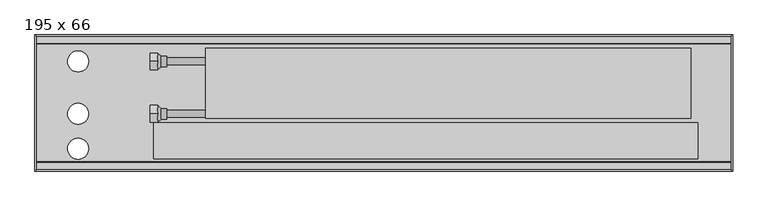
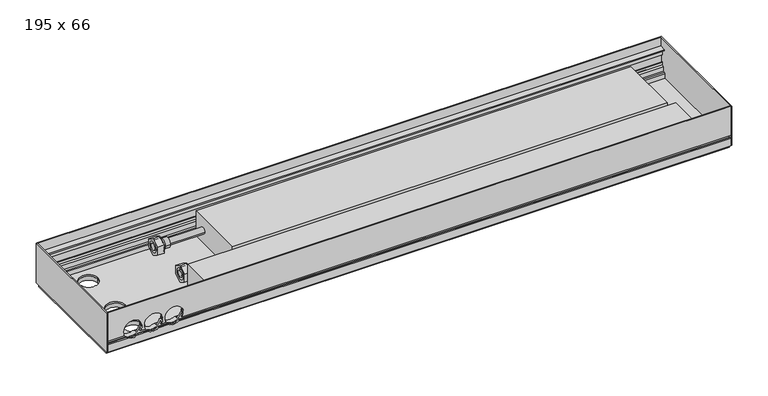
"""IFC4 building model written with IfcOpenShell, lengths in millimetres: proxy geometry, Mohlenhof_Внутрипольный конвектор_QSKM : 195 x 66."""

from ifc_helpers import new_model, si_unit, point, frame, frame_2d, origin, place, context, project, spatial, polyline, circle_curve, ellipse_curve, trimmed, segment, composite_curve, outline, extrude, source, transform, mapped, element, save
from ifc_brep_helpers import plane_surface, cylinder_surface, revolved_surface, advanced_brep


def proxy_195_x_66_7b87efa3(model_context):
    return source(origin(), model_context, "Body", "SolidModel", [
        advanced_brep(
        [(-324.0, -213.0, -41.0), (-324.0, -201.0, -41.0), (-324.0, -225.0, -41.0), (-311.5, -220.5, -41.0), (-311.5, -205.5, -41.0), (-311.5, -213.0, -41.0), (-319.0, -220.5, -41.0), (-319.0, -205.5, -41.0)],
        [
            (0, 1),
            (1, 2, circle_curve(frame((-324.0, -213.0, -41.0), z_axis=(-1.0, 0.0, 0.0), x_axis=(0.0, 1.0, 0.0)), 12.0)),
            (2, 0),
            (2, 1, circle_curve(frame((-324.0, -213.0, -41.0), z_axis=(-1.0, 0.0, 0.0), x_axis=(0.0, 1.0, 0.0)), 12.0)),
            (3, 4, circle_curve(frame((-311.5, -213.0, -41.0), z_axis=(1.0, 0.0, 0.0), x_axis=(0.0, 1.0, 0.0)), 7.5)),
            (4, 5),
            (5, 3),
            (4, 3, circle_curve(frame((-311.5, -213.0, -41.0), z_axis=(1.0, 0.0, 0.0), x_axis=(0.0, 1.0, 0.0)), 7.5)),
            (6, 7, circle_curve(frame((-319.0, -213.0, -41.0), z_axis=(1.0, 0.0, 0.0), x_axis=(0.0, 1.0, 0.0)), 7.5)),
            (7, 4),
            (3, 6),
            (7, 6, circle_curve(frame((-319.0, -213.0, -41.0), z_axis=(1.0, 0.0, 0.0), x_axis=(0.0, 1.0, 0.0)), 7.5)),
            (1, 7),
            (6, 2),
        ],
        [
            plane_surface(frame((-324.0, -213.0, -41.0), z_axis=(-1.0, 0.0, 0.0), x_axis=(0.0, 1.0, 0.0))),
            plane_surface(frame((-311.5, -213.0, -41.0), z_axis=(1.0, 0.0, 0.0), x_axis=(0.0, 1.0, 0.0))),
            cylinder_surface(frame((-324.0, -213.0, -41.0), z_axis=(-1.0, 0.0, 0.0), x_axis=(0.0, 1.0, 0.0)), 7.5),
            revolved_surface(polyline([(-319.0, -205.5, -41.0), (-324.0, -201.0, -41.0)]), (-324.0, -213.0, -41.0), (-1.0, 0.0, 0.0)),
        ],
        [
            (0, [[1, 2, 3]]),
            (0, [[-3, 4, -1]]),
            (1, [[5, 6, 7]]),
            (1, [[8, -7, -6]]),
            (2, [[9, 10, -5, 11]]),
            (2, [[12, -11, -8, -10]]),
            (3, [[-2, 13, -9, 14]]),
            (3, [[-4, -14, -12, -13]]),
        ],
    ),
        extrude(outline(polyline([(-213.0, -27.1435935), (-201.0, -34.0717968), (-201.0, -47.9282032), (-213.0, -54.8564065), (-225.0, -47.9282032), (-225.0, -34.0717968), (-213.0, -27.1435935)]), holes=[composite_curve([segment(trimmed(circle_curve(frame_2d((-213.0, -41.0)), 8.5), [point((-204.5, -41.0))], [point((-221.5, -41.0))], True, "CARTESIAN"), True, "CONTINUOUS"), segment(trimmed(circle_curve(frame_2d((-213.0, -41.0)), 8.5), [point((-221.5, -41.0))], [point((-204.5, -41.0))], True, "CARTESIAN"), True, "CONTINUOUS")], self_intersect=False)]), frame((-335.0, 0.0, 0.0), z_axis=(1.0, 0.0, 0.0), x_axis=(0.0, 1.0, 0.0)), (0.0, 0.0, 1.0), 11.0),
        advanced_brep(
        [(-324.0, -138.0, -41.0), (-324.0, -126.0, -41.0), (-324.0, -150.0, -41.0), (-311.5, -145.5, -41.0), (-311.5, -130.5, -41.0), (-311.5, -138.0, -41.0), (-319.0, -145.5, -41.0), (-319.0, -130.5, -41.0)],
        [
            (0, 1),
            (1, 2, circle_curve(frame((-324.0, -138.0, -41.0), z_axis=(-1.0, 0.0, 0.0), x_axis=(0.0, 1.0, 0.0)), 12.0)),
            (2, 0),
            (2, 1, circle_curve(frame((-324.0, -138.0, -41.0), z_axis=(-1.0, 0.0, 0.0), x_axis=(0.0, 1.0, 0.0)), 12.0)),
            (3, 4, circle_curve(frame((-311.5, -138.0, -41.0), z_axis=(1.0, 0.0, 0.0), x_axis=(0.0, 1.0, 0.0)), 7.5)),
            (4, 5),
            (5, 3),
            (4, 3, circle_curve(frame((-311.5, -138.0, -41.0), z_axis=(1.0, 0.0, 0.0), x_axis=(0.0, 1.0, 0.0)), 7.5)),
            (6, 7, circle_curve(frame((-319.0, -138.0, -41.0), z_axis=(1.0, 0.0, 0.0), x_axis=(0.0, 1.0, 0.0)), 7.5)),
            (7, 4),
            (3, 6),
            (7, 6, circle_curve(frame((-319.0, -138.0, -41.0), z_axis=(1.0, 0.0, 0.0), x_axis=(0.0, 1.0, 0.0)), 7.5)),
            (1, 7),
            (6, 2),
        ],
        [
            plane_surface(frame((-324.0, -138.0, -41.0), z_axis=(-1.0, 0.0, 0.0), x_axis=(0.0, 1.0, 0.0))),
            plane_surface(frame((-311.5, -138.0, -41.0), z_axis=(1.0, 0.0, 0.0), x_axis=(0.0, 1.0, 0.0))),
            cylinder_surface(frame((-324.0, -138.0, -41.0), z_axis=(-1.0, 0.0, 0.0), x_axis=(0.0, 1.0, 0.0)), 7.5),
            revolved_surface(polyline([(-319.0, -130.5, -41.0), (-324.0, -126.0, -41.0)]), (-324.0, -138.0, -41.0), (-1.0, 0.0, 0.0)),
        ],
        [
            (0, [[1, 2, 3]]),
            (0, [[-3, 4, -1]]),
            (1, [[5, 6, 7]]),
            (1, [[8, -7, -6]]),
            (2, [[9, 10, -5, 11]]),
            (2, [[12, -11, -8, -10]]),
            (3, [[-2, 13, -9, 14]]),
            (3, [[-4, -14, -12, -13]]),
        ],
    ),
        extrude(outline(polyline([(-138.0, -27.1435935), (-126.0, -34.0717968), (-126.0, -47.9282032), (-138.0, -54.8564065), (-150.0, -47.9282032), (-150.0, -34.0717968), (-138.0, -27.1435935)]), holes=[composite_curve([segment(trimmed(circle_curve(frame_2d((-138.0, -41.0)), 8.5), [point((-129.5, -41.0))], [point((-146.5, -41.0))], True, "CARTESIAN"), True, "CONTINUOUS"), segment(trimmed(circle_curve(frame_2d((-138.0, -41.0)), 8.5), [point((-146.5, -41.0))], [point((-129.5, -41.0))], True, "CARTESIAN"), True, "CONTINUOUS")], self_intersect=False)]), frame((-335.0, 0.0, 0.0), z_axis=(1.0, 0.0, 0.0), x_axis=(0.0, 1.0, 0.0)), (0.0, 0.0, 1.0), 11.0),
        extrude(outline(composite_curve([segment(trimmed(circle_curve(frame_2d((-475.0, -273.5)), 4.5), [point((-479.5, -273.5))], [point((-470.5, -273.5))], False, "CARTESIAN"), True, "CONTINUOUS"), segment(trimmed(circle_curve(frame_2d((-475.0, -273.5)), 4.5), [point((-470.5, -273.5))], [point((-479.5, -273.5))], False, "CARTESIAN"), True, "CONTINUOUS")], self_intersect=False)), frame((0.0, 0.0, -79.0), z_axis=(0.0, 0.0, 1.0), x_axis=(1.0, 0.0, 0.0)), (0.0, 0.0, 1.0), 7.0),
        extrude(outline(composite_curve([segment(trimmed(circle_curve(frame_2d((-475.0, -273.5)), 4.0), [point((-479.0, -273.5))], [point((-471.0, -273.5))], False, "CARTESIAN"), True, "CONTINUOUS"), segment(trimmed(circle_curve(frame_2d((-475.0, -273.5)), 4.0), [point((-471.0, -273.5))], [point((-479.0, -273.5))], False, "CARTESIAN"), True, "CONTINUOUS")], self_intersect=False)), frame((0.0, 0.0, -72.0), z_axis=(0.0, 0.0, 1.0), x_axis=(1.0, 0.0, 0.0)), (0.0, 0.0, 1.0), 1.5),
        extrude(outline(composite_curve([segment(trimmed(circle_curve(frame_2d((-475.0, -121.5)), 4.5), [point((-479.5, -121.5))], [point((-470.5, -121.5))], False, "CARTESIAN"), True, "CONTINUOUS"), segment(trimmed(circle_curve(frame_2d((-475.0, -121.5)), 4.5), [point((-470.5, -121.5))], [point((-479.5, -121.5))], False, "CARTESIAN"), True, "CONTINUOUS")], self_intersect=False)), frame((0.0, 0.0, -79.0), z_axis=(0.0, 0.0, 1.0), x_axis=(1.0, 0.0, 0.0)), (0.0, 0.0, 1.0), 7.0),
        extrude(outline(composite_curve([segment(trimmed(circle_curve(frame_2d((-475.0, -121.5)), 4.0), [point((-479.0, -121.5))], [point((-471.0, -121.5))], False, "CARTESIAN"), True, "CONTINUOUS"), segment(trimmed(circle_curve(frame_2d((-475.0, -121.5)), 4.0), [point((-471.0, -121.5))], [point((-479.0, -121.5))], False, "CARTESIAN"), True, "CONTINUOUS")], self_intersect=False)), frame((0.0, 0.0, -72.0), z_axis=(0.0, 0.0, 1.0), x_axis=(1.0, 0.0, 0.0)), (0.0, 0.0, 1.0), 1.5),
        extrude(outline(composite_curve([segment(trimmed(circle_curve(frame_2d((475.0, -273.5)), 4.5), [point((470.5, -273.5))], [point((479.5, -273.5))], False, "CARTESIAN"), True, "CONTINUOUS"), segment(trimmed(circle_curve(frame_2d((475.0, -273.5)), 4.5), [point((479.5, -273.5))], [point((470.5, -273.5))], False, "CARTESIAN"), True, "CONTINUOUS")], self_intersect=False)), frame((0.0, 0.0, -79.0), z_axis=(0.0, 0.0, 1.0), x_axis=(1.0, 0.0, 0.0)), (0.0, 0.0, 1.0), 7.0),
        extrude(outline(composite_curve([segment(trimmed(circle_curve(frame_2d((475.0, -273.5)), 4.0), [point((471.0, -273.5))], [point((479.0, -273.5))], False, "CARTESIAN"), True, "CONTINUOUS"), segment(trimmed(circle_curve(frame_2d((475.0, -273.5)), 4.0), [point((479.0, -273.5))], [point((471.0, -273.5))], False, "CARTESIAN"), True, "CONTINUOUS")], self_intersect=False)), frame((0.0, 0.0, -72.0), z_axis=(0.0, 0.0, 1.0), x_axis=(1.0, 0.0, 0.0)), (0.0, 0.0, 1.0), 1.5),
        extrude(outline(composite_curve([segment(trimmed(circle_curve(frame_2d((475.0, -121.5)), 4.5), [point((470.5, -121.5))], [point((479.5, -121.5))], False, "CARTESIAN"), True, "CONTINUOUS"), segment(trimmed(circle_curve(frame_2d((475.0, -121.5)), 4.5), [point((479.5, -121.5))], [point((470.5, -121.5))], False, "CARTESIAN"), True, "CONTINUOUS")], self_intersect=False)), frame((0.0, 0.0, -79.0), z_axis=(0.0, 0.0, 1.0), x_axis=(1.0, 0.0, 0.0)), (0.0, 0.0, 1.0), 7.0),
        extrude(outline(composite_curve([segment(trimmed(circle_curve(frame_2d((475.0, -121.5)), 4.0), [point((471.0, -121.5))], [point((479.0, -121.5))], False, "CARTESIAN"), True, "CONTINUOUS"), segment(trimmed(circle_curve(frame_2d((475.0, -121.5)), 4.0), [point((479.0, -121.5))], [point((471.0, -121.5))], False, "CARTESIAN"), True, "CONTINUOUS")], self_intersect=False)), frame((0.0, 0.0, -72.0), z_axis=(0.0, 0.0, 1.0), x_axis=(1.0, 0.0, 0.0)), (0.0, 0.0, 1.0), 1.5),
        extrude(outline(polyline([(450.0, -225.87), (450.0, -277.18), (-330.0, -277.18), (-330.0, -225.87), (450.0, -225.87)])), frame((0.0, 0.0, -62.5), z_axis=(0.0, 0.0, 1.0), x_axis=(1.0, 0.0, 0.0)), (0.0, 0.0, 1.0), 43.62),
        extrude(outline(composite_curve([segment(trimmed(circle_curve(frame_2d((-213.0, -41.0)), 5.0), [point((-218.0, -41.0))], [point((-208.0, -41.0))], False, "CARTESIAN"), True, "CONTINUOUS"), segment(trimmed(circle_curve(frame_2d((-213.0, -41.0)), 5.0), [point((-208.0, -41.0))], [point((-218.0, -41.0))], False, "CARTESIAN"), True, "CONTINUOUS")], self_intersect=False)), frame((-335.0, 0.0, 0.0), z_axis=(1.0, 0.0, 0.0), x_axis=(0.0, 1.0, 0.0)), (0.0, 0.0, 1.0), 80.0),
        extrude(outline(composite_curve([segment(trimmed(circle_curve(frame_2d((-138.0, -41.0)), 5.0), [point((-143.0, -41.0))], [point((-133.0, -41.0))], False, "CARTESIAN"), True, "CONTINUOUS"), segment(trimmed(circle_curve(frame_2d((-138.0, -41.0)), 5.0), [point((-133.0, -41.0))], [point((-143.0, -41.0))], False, "CARTESIAN"), True, "CONTINUOUS")], self_intersect=False)), frame((-335.0, 0.0, 0.0), z_axis=(1.0, 0.0, 0.0), x_axis=(0.0, 1.0, 0.0)), (0.0, 0.0, 1.0), 80.0),
        advanced_brep(
        [(498.0, -295.0, -48.5473602), (498.0, -293.5, -49.2468216), (498.0, -292.5, -49.2468216), (498.0, -292.5, -46.0008038), (498.0, -290.0, -46.0008038), (498.0, -290.0, -56.5008038), (498.0, -292.5, -56.5008038), (498.0, -292.5, -53.2468216), (498.0, -293.5, -53.2468216), (498.0, -295.0, -53.9462831), (498.0, -295.0, -66.5), (498.0, -291.0, -66.5), (498.0, -291.0, -65.2), (498.0, -293.0, -65.2), (498.0, -293.0, -62.5), (498.0, -282.0, -62.5), (498.0, -282.0, -54.9172677), (498.0, -283.4172677, -53.5), (498.0, -287.0, -53.5), (498.0, -287.0, -45.91), (498.0, -289.0, -43.91), (498.0, -289.0, -39.5), (498.0, -290.0, -39.5), (498.0, -290.0, -43.5), (498.0, -292.4956439, -43.5), (498.0, -292.4956439, -23.0), (498.0, -290.0, -23.0), (498.0, -290.0, -27.0), (498.0, -289.0, -27.0), (498.0, -289.0, -17.0), (498.0, -283.3956439, -17.0), (498.0, -283.3956439, -15.0), (498.0, -293.4, -15.0), (498.0, -293.4, 0.0), (498.0, -295.0, 0.0), (-498.0, -295.0, -48.5473602), (-498.0, -295.0, 0.0), (-498.0, -293.4, 0.0), (-498.0, -293.4, -15.0), (-498.0, -283.3956439, -15.0), (-498.0, -283.3956439, -17.0), (-498.0, -289.0, -17.0), (-498.0, -289.0, -27.0), (-498.0, -290.0, -27.0), (-498.0, -290.0, -23.0), (-498.0, -292.4956439, -23.0), (-498.0, -292.4956439, -43.5), (-498.0, -290.0, -43.5), (-498.0, -290.0, -39.5), (-498.0, -289.0, -39.5), (-498.0, -289.0, -43.91), (-498.0, -287.0, -45.91), (-498.0, -287.0, -53.5), (-498.0, -283.4172677, -53.5), (-498.0, -282.0, -54.9172677), (-498.0, -282.0, -62.5), (-498.0, -293.0, -62.5), (-498.0, -293.0, -65.2), (-498.0, -291.0, -65.2), (-498.0, -291.0, -66.5), (-498.0, -295.0, -66.5), (-498.0, -295.0, -53.9462831), (-498.0, -293.5, -53.2468216), (-498.0, -292.5, -53.2468216), (-498.0, -292.5, -56.5008038), (-498.0, -290.0, -56.5008038), (-498.0, -290.0, -46.0008038), (-498.0, -292.5, -46.0008038), (-498.0, -292.5, -49.2468216), (-498.0, -293.5, -49.2468216), (-378.7585985, -295.0, -48.5473602), (-379.155283, -293.5, -49.2468216), (-470.844717, -293.5, -49.2468216), (-471.2414015, -295.0, -48.5473602), (-438.2414015, -295.0, -48.5473602), (-444.7585985, -295.0, -48.5473602), (-445.155283, -293.5, -49.2468216), (-437.844717, -293.5, -49.2468216), (-405.2414015, -295.0, -48.5473602), (-411.7585985, -295.0, -48.5473602), (-412.155283, -293.5, -49.2468216), (-404.844717, -293.5, -49.2468216), (-379.155283, -292.5, -49.2468216), (-470.844717, -292.5, -49.2468216), (-445.155283, -292.5, -49.2468216), (-437.844717, -292.5, -49.2468216), (-412.155283, -292.5, -49.2468216), (-404.844717, -292.5, -49.2468216), (-377.6911648, -292.5, -46.0008038), (-472.3088352, -292.5, -46.0008038), (-443.6911648, -292.5, -46.0008038), (-439.3088352, -292.5, -46.0008038), (-410.6911648, -292.5, -46.0008038), (-406.3088352, -292.5, -46.0008038), (-377.6911648, -290.0, -46.0008038), (-472.3088352, -290.0, -46.0008038), (-443.6911648, -290.0, -46.0008038), (-439.3088352, -290.0, -46.0008038), (-410.6911648, -290.0, -46.0008038), (-406.3088352, -290.0, -46.0008038), (-467.328032, -292.5, -53.2468216), (-448.671968, -292.5, -53.2468216), (-434.328032, -292.5, -53.2468216), (-415.671968, -292.5, -53.2468216), (-401.328032, -292.5, -53.2468216), (-382.671968, -292.5, -53.2468216), (-382.671968, -293.5, -53.2468216), (-467.328032, -293.5, -53.2468216), (-448.671968, -293.5, -53.2468216), (-434.328032, -293.5, -53.2468216), (-415.671968, -293.5, -53.2468216), (-401.328032, -293.5, -53.2468216), (-383.6280208, -295.0, -53.9462831), (-466.3719792, -295.0, -53.9462831), (-449.6280208, -295.0, -53.9462831), (-433.3719792, -295.0, -53.9462831), (-416.6280208, -295.0, -53.9462831), (-400.3719792, -295.0, -53.9462831), (-464.7064841, -282.0, -54.9172677), (-451.2935159, -282.0, -54.9172677), (-431.7064841, -282.0, -54.9172677), (-418.2935159, -282.0, -54.9172677), (-398.7064841, -282.0, -54.9172677), (-385.2935159, -282.0, -54.9172677), (-383.0, -283.4172677, -53.5), (-467.0, -283.4172677, -53.5), (-449.0, -283.4172677, -53.5), (-434.0, -283.4172677, -53.5), (-416.0, -283.4172677, -53.5), (-401.0, -283.4172677, -53.5), (-383.0, -287.0, -53.5), (-467.0, -287.0, -53.5), (-449.0, -287.0, -53.5), (-434.0, -287.0, -53.5), (-416.0, -287.0, -53.5), (-401.0, -287.0, -53.5), (-377.6629187, -287.0, -45.91), (-472.3370813, -287.0, -45.91), (-443.6629187, -287.0, -45.91), (-439.3370813, -287.0, -45.91), (-410.6629187, -287.0, -45.91), (-406.3370813, -287.0, -45.91), (-377.1948691, -289.0, -43.91), (-472.8051309, -289.0, -43.91), (-443.1948691, -289.0, -43.91), (-439.8051309, -289.0, -43.91), (-410.1948691, -289.0, -43.91), (-406.8051309, -289.0, -43.91), (-377.0, -289.0, -41.5), (-377.1339313, -289.0, -39.5), (-472.8660687, -289.0, -39.5), (-473.0, -289.0, -41.5), (-443.0, -289.0, -41.5), (-443.1339313, -289.0, -39.5), (-439.8660687, -289.0, -39.5), (-440.0, -289.0, -41.5), (-410.0, -289.0, -41.5), (-410.1339313, -289.0, -39.5), (-406.8660687, -289.0, -39.5), (-407.0, -289.0, -41.5), (-377.1339313, -290.0, -39.5), (-472.8660687, -290.0, -39.5), (-443.1339313, -290.0, -39.5), (-439.8660687, -290.0, -39.5), (-410.1339313, -290.0, -39.5), (-406.8660687, -290.0, -39.5), (-377.0, -290.0, -41.5), (-377.1339313, -290.0, -43.5), (-472.8660687, -290.0, -43.5), (-473.0, -290.0, -41.5), (-443.0, -290.0, -41.5), (-443.1339313, -290.0, -43.5), (-439.8660687, -290.0, -43.5), (-440.0, -290.0, -41.5), (-410.0, -290.0, -41.5), (-410.1339313, -290.0, -43.5), (-406.8660687, -290.0, -43.5), (-407.0, -290.0, -41.5), (-377.1339313, -292.4956439, -43.5), (-472.8660687, -292.4956439, -43.5), (-443.1339313, -292.4956439, -43.5), (-439.8660687, -292.4956439, -43.5), (-410.1339313, -292.4956439, -43.5), (-406.8660687, -292.4956439, -43.5), (-377.0, -292.4956439, -41.5), (-407.0, -292.4956439, -41.5), (-410.0, -292.4956439, -41.5), (-440.0, -292.4956439, -41.5), (-443.0, -292.4956439, -41.5), (-473.0, -292.4956439, -41.5), (-461.8405729, -290.0, -27.0), (-454.1594271, -290.0, -27.0), (-428.8405729, -290.0, -27.0), (-421.1594271, -290.0, -27.0), (-395.8405729, -290.0, -27.0), (-388.1594271, -290.0, -27.0), (-388.1594271, -289.0, -27.0), (-461.8405729, -289.0, -27.0), (-454.1594271, -289.0, -27.0), (-428.8405729, -289.0, -27.0), (-421.1594271, -289.0, -27.0), (-395.8405729, -289.0, -27.0), (-473.0, -295.0, -41.5), (-443.0, -295.0, -41.5), (-440.0, -295.0, -41.5), (-410.0, -295.0, -41.5), (-407.0, -295.0, -41.5), (-377.0, -295.0, -41.5)],
        [
            (0, 1),
            (1, 2),
            (2, 3),
            (3, 4),
            (4, 5),
            (5, 6),
            (6, 7),
            (7, 8),
            (8, 9),
            (9, 10),
            (10, 11),
            (11, 12),
            (12, 13),
            (13, 14),
            (14, 15),
            (15, 16),
            (16, 17),
            (17, 18),
            (18, 19),
            (19, 20),
            (20, 21),
            (21, 22),
            (22, 23),
            (23, 24),
            (24, 25),
            (25, 26),
            (26, 27),
            (27, 28),
            (28, 29),
            (29, 30),
            (30, 31),
            (31, 32),
            (32, 33),
            (33, 34),
            (34, 0),
            (35, 36),
            (36, 37),
            (37, 38),
            (38, 39),
            (39, 40),
            (40, 41),
            (41, 42),
            (42, 43),
            (43, 44),
            (44, 45),
            (45, 46),
            (46, 47),
            (47, 48),
            (48, 49),
            (49, 50),
            (50, 51),
            (51, 52),
            (52, 53),
            (53, 54),
            (54, 55),
            (55, 56),
            (56, 57),
            (57, 58),
            (58, 59),
            (59, 60),
            (60, 61),
            (61, 62),
            (62, 63),
            (63, 64),
            (64, 65),
            (65, 66),
            (66, 67),
            (67, 68),
            (68, 69),
            (69, 35),
            (0, 70),
            (70, 71, ellipse_curve(frame((-392.0, -310.1131126, -41.5), z_axis=(0.0, 0.42261826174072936, 0.9063077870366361), x_axis=(0.0, -0.906307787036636, 0.4226182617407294)), 35.4930237, 15.0)),
            (71, 1),
            (69, 72),
            (72, 73, ellipse_curve(frame((-458.0, -310.1131126, -41.5), z_axis=(0.0, 0.42261826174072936, 0.9063077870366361), x_axis=(0.0, -0.906307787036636, 0.4226182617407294)), 35.4930237, 15.0)),
            (73, 35),
            (74, 75),
            (75, 76, ellipse_curve(frame((-458.0, -310.1131126, -41.5), z_axis=(0.0, 0.42261826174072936, 0.9063077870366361), x_axis=(0.0, -0.906307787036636, 0.4226182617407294)), 35.4930237, 15.0)),
            (76, 77),
            (77, 74, ellipse_curve(frame((-425.0, -310.1131126, -41.5), z_axis=(0.0, 0.42261826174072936, 0.9063077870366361), x_axis=(0.0, -0.906307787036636, 0.4226182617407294)), 35.4930237, 15.0)),
            (78, 79),
            (79, 80, ellipse_curve(frame((-425.0, -310.1131126, -41.5), z_axis=(0.0, 0.42261826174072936, 0.9063077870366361), x_axis=(0.0, -0.906307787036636, 0.4226182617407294)), 35.4930237, 15.0)),
            (80, 81),
            (81, 78, ellipse_curve(frame((-392.0, -310.1131126, -41.5), z_axis=(0.0, 0.42261826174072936, 0.9063077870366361), x_axis=(0.0, -0.906307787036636, 0.4226182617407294)), 35.4930237, 15.0)),
            (71, 82),
            (82, 2),
            (68, 83),
            (83, 72),
            (76, 84),
            (84, 85),
            (85, 77),
            (80, 86),
            (86, 87),
            (87, 81),
            (82, 88, circle_curve(frame((-392.0, -292.5, -41.5), z_axis=(0.0, -1.0, 0.0), x_axis=(1.0, 0.0, 0.0)), 15.0)),
            (88, 3),
            (67, 89),
            (89, 83, circle_curve(frame((-458.0, -292.5, -41.5), z_axis=(0.0, -1.0, 0.0), x_axis=(1.0, 0.0, 0.0)), 15.0)),
            (84, 90, circle_curve(frame((-458.0, -292.5, -41.5), z_axis=(0.0, -1.0, 0.0), x_axis=(1.0, 0.0, 0.0)), 15.0)),
            (90, 91),
            (91, 85, circle_curve(frame((-425.0, -292.5, -41.5), z_axis=(0.0, -1.0, 0.0), x_axis=(1.0, 0.0, 0.0)), 15.0)),
            (86, 92, circle_curve(frame((-425.0, -292.5, -41.5), z_axis=(0.0, -1.0, 0.0), x_axis=(1.0, 0.0, 0.0)), 15.0)),
            (92, 93),
            (93, 87, circle_curve(frame((-392.0, -292.5, -41.5), z_axis=(0.0, -1.0, 0.0), x_axis=(1.0, 0.0, 0.0)), 15.0)),
            (88, 94),
            (94, 4),
            (66, 95),
            (95, 89),
            (90, 96),
            (96, 97),
            (97, 91),
            (92, 98),
            (98, 99),
            (99, 93),
            (94, 99, circle_curve(frame((-392.0, -290.0, -41.5), z_axis=(0.0, 1.0, 0.0), x_axis=(1.0, 0.0, 0.0)), 15.0)),
            (98, 97, circle_curve(frame((-425.0, -290.0, -41.5), z_axis=(0.0, 1.0, 0.0), x_axis=(1.0, 0.0, 0.0)), 15.0)),
            (96, 95, circle_curve(frame((-458.0, -290.0, -41.5), z_axis=(0.0, 1.0, 0.0), x_axis=(1.0, 0.0, 0.0)), 15.0)),
            (65, 5),
            (64, 6),
            (63, 100),
            (100, 101, circle_curve(frame((-458.0, -292.5, -41.5), z_axis=(0.0, -1.0, 0.0), x_axis=(1.0, 0.0, 0.0)), 15.0)),
            (101, 102),
            (102, 103, circle_curve(frame((-425.0, -292.5, -41.5), z_axis=(0.0, -1.0, 0.0), x_axis=(1.0, 0.0, 0.0)), 15.0)),
            (103, 104),
            (104, 105, circle_curve(frame((-392.0, -292.5, -41.5), z_axis=(0.0, -1.0, 0.0), x_axis=(1.0, 0.0, 0.0)), 15.0)),
            (105, 7),
            (105, 106),
            (106, 8),
            (62, 107),
            (107, 100),
            (101, 108),
            (108, 109),
            (109, 102),
            (103, 110),
            (110, 111),
            (111, 104),
            (106, 112, ellipse_curve(frame((-392.0, -268.3088597, -41.5), z_axis=(0.0, 0.4226182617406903, -0.9063077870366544), x_axis=(0.0, -0.9063077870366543, -0.42261826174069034)), 35.4930237, 15.0)),
            (112, 9),
            (61, 113),
            (113, 107, ellipse_curve(frame((-458.0, -268.3088597, -41.5), z_axis=(0.0, 0.4226182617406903, -0.9063077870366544), x_axis=(0.0, -0.9063077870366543, -0.42261826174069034)), 35.4930237, 15.0)),
            (108, 114, ellipse_curve(frame((-458.0, -268.3088597, -41.5), z_axis=(0.0, 0.4226182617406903, -0.9063077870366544), x_axis=(0.0, -0.9063077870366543, -0.42261826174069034)), 35.4930237, 15.0)),
            (114, 115),
            (115, 109, ellipse_curve(frame((-425.0, -268.3088597, -41.5), z_axis=(0.0, 0.4226182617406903, -0.9063077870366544), x_axis=(0.0, -0.9063077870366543, -0.42261826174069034)), 35.4930237, 15.0)),
            (110, 116, ellipse_curve(frame((-425.0, -268.3088597, -41.5), z_axis=(0.0, 0.4226182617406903, -0.9063077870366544), x_axis=(0.0, -0.9063077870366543, -0.42261826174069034)), 35.4930237, 15.0)),
            (116, 117),
            (117, 111, ellipse_curve(frame((-392.0, -268.3088597, -41.5), z_axis=(0.0, 0.4226182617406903, -0.9063077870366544), x_axis=(0.0, -0.9063077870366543, -0.42261826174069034)), 35.4930237, 15.0)),
            (112, 117, circle_curve(frame((-392.0, -295.0, -41.5), z_axis=(0.0, 1.0, 0.0), x_axis=(1.0, 0.0, 0.0)), 15.0)),
            (116, 115, circle_curve(frame((-425.0, -295.0, -41.5), z_axis=(0.0, 1.0, 0.0), x_axis=(1.0, 0.0, 0.0)), 15.0)),
            (114, 113, circle_curve(frame((-458.0, -295.0, -41.5), z_axis=(0.0, 1.0, 0.0), x_axis=(1.0, 0.0, 0.0)), 15.0)),
            (60, 10),
            (59, 11),
            (58, 12),
            (57, 13),
            (56, 14),
            (55, 15),
            (54, 118),
            (118, 119, circle_curve(frame((-458.0, -282.0, -41.5), z_axis=(0.0, -1.0, 0.0), x_axis=(1.0, 0.0, 0.0)), 15.0)),
            (119, 120),
            (120, 121, circle_curve(frame((-425.0, -282.0, -41.5), z_axis=(0.0, -1.0, 0.0), x_axis=(1.0, 0.0, 0.0)), 15.0)),
            (121, 122),
            (122, 123, circle_curve(frame((-392.0, -282.0, -41.5), z_axis=(0.0, -1.0, 0.0), x_axis=(1.0, 0.0, 0.0)), 15.0)),
            (123, 16),
            (123, 124, ellipse_curve(frame((-392.0, -295.4172677, -41.5), z_axis=(0.0, -0.7071067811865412, -0.7071067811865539), x_axis=(0.0, -0.7071067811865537, 0.7071067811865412)), 21.2132034, 15.0)),
            (124, 17),
            (53, 125),
            (125, 118, ellipse_curve(frame((-458.0, -295.4172677, -41.5), z_axis=(0.0, -0.7071067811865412, -0.7071067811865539), x_axis=(0.0, -0.7071067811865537, 0.7071067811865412)), 21.2132034, 15.0)),
            (119, 126, ellipse_curve(frame((-458.0, -295.4172677, -41.5), z_axis=(0.0, -0.7071067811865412, -0.7071067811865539), x_axis=(0.0, -0.7071067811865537, 0.7071067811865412)), 21.2132034, 15.0)),
            (126, 127),
            (127, 120, ellipse_curve(frame((-425.0, -295.4172677, -41.5), z_axis=(0.0, -0.7071067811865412, -0.7071067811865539), x_axis=(0.0, -0.7071067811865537, 0.7071067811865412)), 21.2132034, 15.0)),
            (121, 128, ellipse_curve(frame((-425.0, -295.4172677, -41.5), z_axis=(0.0, -0.7071067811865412, -0.7071067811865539), x_axis=(0.0, -0.7071067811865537, 0.7071067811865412)), 21.2132034, 15.0)),
            (128, 129),
            (129, 122, ellipse_curve(frame((-392.0, -295.4172677, -41.5), z_axis=(0.0, -0.7071067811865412, -0.7071067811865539), x_axis=(0.0, -0.7071067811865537, 0.7071067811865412)), 21.2132034, 15.0)),
            (124, 130),
            (130, 18),
            (52, 131),
            (131, 125),
            (126, 132),
            (132, 133),
            (133, 127),
            (128, 134),
            (134, 135),
            (135, 129),
            (130, 136, circle_curve(frame((-392.0, -287.0, -41.5), z_axis=(0.0, -1.0, 0.0), x_axis=(1.0, 0.0, 0.0)), 15.0)),
            (136, 19),
            (51, 137),
            (137, 131, circle_curve(frame((-458.0, -287.0, -41.5), z_axis=(0.0, -1.0, 0.0), x_axis=(1.0, 0.0, 0.0)), 15.0)),
            (132, 138, circle_curve(frame((-458.0, -287.0, -41.5), z_axis=(0.0, -1.0, 0.0), x_axis=(1.0, 0.0, 0.0)), 15.0)),
            (138, 139),
            (139, 133, circle_curve(frame((-425.0, -287.0, -41.5), z_axis=(0.0, -1.0, 0.0), x_axis=(1.0, 0.0, 0.0)), 15.0)),
            (134, 140, circle_curve(frame((-425.0, -287.0, -41.5), z_axis=(0.0, -1.0, 0.0), x_axis=(1.0, 0.0, 0.0)), 15.0)),
            (140, 141),
            (141, 135, circle_curve(frame((-392.0, -287.0, -41.5), z_axis=(0.0, -1.0, 0.0), x_axis=(1.0, 0.0, 0.0)), 15.0)),
            (136, 142, ellipse_curve(frame((-392.0, -291.41, -41.5), z_axis=(0.0, -0.7071067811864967, -0.7071067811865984), x_axis=(0.0, -0.7071067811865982, 0.7071067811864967)), 21.2132034, 15.0)),
            (142, 20),
            (50, 143),
            (143, 137, ellipse_curve(frame((-458.0, -291.41, -41.5), z_axis=(0.0, -0.7071067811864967, -0.7071067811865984), x_axis=(0.0, -0.7071067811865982, 0.7071067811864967)), 21.2132034, 15.0)),
            (138, 144, ellipse_curve(frame((-458.0, -291.41, -41.5), z_axis=(0.0, -0.7071067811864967, -0.7071067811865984), x_axis=(0.0, -0.7071067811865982, 0.7071067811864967)), 21.2132034, 15.0)),
            (144, 145),
            (145, 139, ellipse_curve(frame((-425.0, -291.41, -41.5), z_axis=(0.0, -0.7071067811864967, -0.7071067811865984), x_axis=(0.0, -0.7071067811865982, 0.7071067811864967)), 21.2132034, 15.0)),
            (140, 146, ellipse_curve(frame((-425.0, -291.41, -41.5), z_axis=(0.0, -0.7071067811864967, -0.7071067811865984), x_axis=(0.0, -0.7071067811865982, 0.7071067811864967)), 21.2132034, 15.0)),
            (146, 147),
            (147, 141, ellipse_curve(frame((-392.0, -291.41, -41.5), z_axis=(0.0, -0.7071067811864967, -0.7071067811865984), x_axis=(0.0, -0.7071067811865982, 0.7071067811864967)), 21.2132034, 15.0)),
            (142, 148, circle_curve(frame((-392.0, -289.0, -41.5), z_axis=(0.0, -1.0, 0.0), x_axis=(1.0, 0.0, 0.0)), 15.0)),
            (148, 149, circle_curve(frame((-392.0, -289.0, -41.5), z_axis=(0.0, -1.0, 0.0), x_axis=(1.0, 0.0, 0.0)), 15.0)),
            (149, 21),
            (49, 150),
            (150, 151, circle_curve(frame((-458.0, -289.0, -41.5), z_axis=(0.0, -1.0, 0.0), x_axis=(1.0, 0.0, 0.0)), 15.0)),
            (151, 143, circle_curve(frame((-458.0, -289.0, -41.5), z_axis=(0.0, -1.0, 0.0), x_axis=(1.0, 0.0, 0.0)), 15.0)),
            (144, 152, circle_curve(frame((-458.0, -289.0, -41.5), z_axis=(0.0, -1.0, 0.0), x_axis=(1.0, 0.0, 0.0)), 15.0)),
            (152, 153, circle_curve(frame((-458.0, -289.0, -41.5), z_axis=(0.0, -1.0, 0.0), x_axis=(1.0, 0.0, 0.0)), 15.0)),
            (153, 154),
            (154, 155, circle_curve(frame((-425.0, -289.0, -41.5), z_axis=(0.0, -1.0, 0.0), x_axis=(1.0, 0.0, 0.0)), 15.0)),
            (155, 145, circle_curve(frame((-425.0, -289.0, -41.5), z_axis=(0.0, -1.0, 0.0), x_axis=(1.0, 0.0, 0.0)), 15.0)),
            (146, 156, circle_curve(frame((-425.0, -289.0, -41.5), z_axis=(0.0, -1.0, 0.0), x_axis=(1.0, 0.0, 0.0)), 15.0)),
            (156, 157, circle_curve(frame((-425.0, -289.0, -41.5), z_axis=(0.0, -1.0, 0.0), x_axis=(1.0, 0.0, 0.0)), 15.0)),
            (157, 158),
            (158, 159, circle_curve(frame((-392.0, -289.0, -41.5), z_axis=(0.0, -1.0, 0.0), x_axis=(1.0, 0.0, 0.0)), 15.0)),
            (159, 147, circle_curve(frame((-392.0, -289.0, -41.5), z_axis=(0.0, -1.0, 0.0), x_axis=(1.0, 0.0, 0.0)), 15.0)),
            (149, 160),
            (160, 22),
            (48, 161),
            (161, 150),
            (153, 162),
            (162, 163),
            (163, 154),
            (157, 164),
            (164, 165),
            (165, 158),
            (160, 166, circle_curve(frame((-392.0, -290.0, -41.5), z_axis=(0.0, 1.0, 0.0), x_axis=(1.0, 0.0, 0.0)), 15.0)),
            (166, 167, circle_curve(frame((-392.0, -290.0, -41.5), z_axis=(0.0, 1.0, 0.0), x_axis=(1.0, 0.0, 0.0)), 15.0)),
            (167, 23),
            (47, 168),
            (168, 169, circle_curve(frame((-458.0, -290.0, -41.5), z_axis=(0.0, 1.0, 0.0), x_axis=(1.0, 0.0, 0.0)), 15.0)),
            (169, 161, circle_curve(frame((-458.0, -290.0, -41.5), z_axis=(0.0, 1.0, 0.0), x_axis=(1.0, 0.0, 0.0)), 15.0)),
            (162, 170, circle_curve(frame((-458.0, -290.0, -41.5), z_axis=(0.0, 1.0, 0.0), x_axis=(1.0, 0.0, 0.0)), 15.0)),
            (170, 171, circle_curve(frame((-458.0, -290.0, -41.5), z_axis=(0.0, 1.0, 0.0), x_axis=(1.0, 0.0, 0.0)), 15.0)),
            (171, 172),
            (172, 173, circle_curve(frame((-425.0, -290.0, -41.5), z_axis=(0.0, 1.0, 0.0), x_axis=(1.0, 0.0, 0.0)), 15.0)),
            (173, 163, circle_curve(frame((-425.0, -290.0, -41.5), z_axis=(0.0, 1.0, 0.0), x_axis=(1.0, 0.0, 0.0)), 15.0)),
            (164, 174, circle_curve(frame((-425.0, -290.0, -41.5), z_axis=(0.0, 1.0, 0.0), x_axis=(1.0, 0.0, 0.0)), 15.0)),
            (174, 175, circle_curve(frame((-425.0, -290.0, -41.5), z_axis=(0.0, 1.0, 0.0), x_axis=(1.0, 0.0, 0.0)), 15.0)),
            (175, 176),
            (176, 177, circle_curve(frame((-392.0, -290.0, -41.5), z_axis=(0.0, 1.0, 0.0), x_axis=(1.0, 0.0, 0.0)), 15.0)),
            (177, 165, circle_curve(frame((-392.0, -290.0, -41.5), z_axis=(0.0, 1.0, 0.0), x_axis=(1.0, 0.0, 0.0)), 15.0)),
            (167, 178),
            (178, 24),
            (46, 179),
            (179, 168),
            (171, 180),
            (180, 181),
            (181, 172),
            (175, 182),
            (182, 183),
            (183, 176),
            (178, 184, circle_curve(frame((-392.0, -292.4956439, -41.5), z_axis=(0.0, -1.0, 0.0), x_axis=(1.0, 0.0, 0.0)), 15.0)),
            (184, 185, circle_curve(frame((-392.0, -292.4956439, -41.5), z_axis=(0.0, -1.0, 0.0), x_axis=(1.0, 0.0, 0.0)), 15.0)),
            (185, 183, circle_curve(frame((-392.0, -292.4956439, -41.5), z_axis=(0.0, -1.0, 0.0), x_axis=(1.0, 0.0, 0.0)), 15.0)),
            (182, 186, circle_curve(frame((-425.0, -292.4956439, -41.5), z_axis=(0.0, -1.0, 0.0), x_axis=(1.0, 0.0, 0.0)), 15.0)),
            (186, 187, circle_curve(frame((-425.0, -292.4956439, -41.5), z_axis=(0.0, -1.0, 0.0), x_axis=(1.0, 0.0, 0.0)), 15.0)),
            (187, 181, circle_curve(frame((-425.0, -292.4956439, -41.5), z_axis=(0.0, -1.0, 0.0), x_axis=(1.0, 0.0, 0.0)), 15.0)),
            (180, 188, circle_curve(frame((-458.0, -292.4956439, -41.5), z_axis=(0.0, -1.0, 0.0), x_axis=(1.0, 0.0, 0.0)), 15.0)),
            (188, 189, circle_curve(frame((-458.0, -292.4956439, -41.5), z_axis=(0.0, -1.0, 0.0), x_axis=(1.0, 0.0, 0.0)), 15.0)),
            (189, 179, circle_curve(frame((-458.0, -292.4956439, -41.5), z_axis=(0.0, -1.0, 0.0), x_axis=(1.0, 0.0, 0.0)), 15.0)),
            (45, 25),
            (44, 26),
            (43, 190),
            (190, 191, circle_curve(frame((-458.0, -290.0, -41.5), z_axis=(0.0, 1.0, 0.0), x_axis=(1.0, 0.0, 0.0)), 15.0)),
            (191, 192),
            (192, 193, circle_curve(frame((-425.0, -290.0, -41.5), z_axis=(0.0, 1.0, 0.0), x_axis=(1.0, 0.0, 0.0)), 15.0)),
            (193, 194),
            (194, 195, circle_curve(frame((-392.0, -290.0, -41.5), z_axis=(0.0, 1.0, 0.0), x_axis=(1.0, 0.0, 0.0)), 15.0)),
            (195, 27),
            (195, 196),
            (196, 28),
            (42, 197),
            (197, 190),
            (191, 198),
            (198, 199),
            (199, 192),
            (193, 200),
            (200, 201),
            (201, 194),
            (196, 201, circle_curve(frame((-392.0, -289.0, -41.5), z_axis=(0.0, -1.0, 0.0), x_axis=(1.0, 0.0, 0.0)), 15.0)),
            (200, 199, circle_curve(frame((-425.0, -289.0, -41.5), z_axis=(0.0, -1.0, 0.0), x_axis=(1.0, 0.0, 0.0)), 15.0)),
            (198, 197, circle_curve(frame((-458.0, -289.0, -41.5), z_axis=(0.0, -1.0, 0.0), x_axis=(1.0, 0.0, 0.0)), 15.0)),
            (41, 29),
            (40, 30),
            (39, 31),
            (38, 32),
            (37, 33),
            (36, 34),
            (73, 202, circle_curve(frame((-458.0, -295.0, -41.5), z_axis=(0.0, 1.0, 0.0), x_axis=(1.0, 0.0, 0.0)), 15.0)),
            (202, 203, circle_curve(frame((-458.0, -295.0, -41.5), z_axis=(0.0, 1.0, 0.0), x_axis=(1.0, 0.0, 0.0)), 15.0)),
            (203, 75, circle_curve(frame((-458.0, -295.0, -41.5), z_axis=(0.0, 1.0, 0.0), x_axis=(1.0, 0.0, 0.0)), 15.0)),
            (74, 204, circle_curve(frame((-425.0, -295.0, -41.5), z_axis=(0.0, 1.0, 0.0), x_axis=(1.0, 0.0, 0.0)), 15.0)),
            (204, 205, circle_curve(frame((-425.0, -295.0, -41.5), z_axis=(0.0, 1.0, 0.0), x_axis=(1.0, 0.0, 0.0)), 15.0)),
            (205, 79, circle_curve(frame((-425.0, -295.0, -41.5), z_axis=(0.0, 1.0, 0.0), x_axis=(1.0, 0.0, 0.0)), 15.0)),
            (78, 206, circle_curve(frame((-392.0, -295.0, -41.5), z_axis=(0.0, 1.0, 0.0), x_axis=(1.0, 0.0, 0.0)), 15.0)),
            (206, 207, circle_curve(frame((-392.0, -295.0, -41.5), z_axis=(0.0, 1.0, 0.0), x_axis=(1.0, 0.0, 0.0)), 15.0)),
            (207, 70, circle_curve(frame((-392.0, -295.0, -41.5), z_axis=(0.0, 1.0, 0.0), x_axis=(1.0, 0.0, 0.0)), 15.0)),
            (151, 169),
            (189, 202),
            (203, 188),
            (170, 152),
            (155, 173),
            (187, 204),
            (205, 186),
            (174, 156),
            (159, 177),
            (185, 206),
            (207, 184),
            (166, 148),
        ],
        [
            plane_surface(frame((498.0, -293.0, -62.5), z_axis=(1.0, 0.0, 0.0), x_axis=(0.0, 0.0, 1.0))),
            plane_surface(frame((-498.0, -293.0, -62.5), z_axis=(-1.0, 0.0, 0.0), x_axis=(0.0, 0.0, 1.0))),
            plane_surface(frame((498.0, -295.0, -48.5473602), z_axis=(0.0, -0.42261826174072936, -0.9063077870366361), x_axis=(-1.0, 0.0, 0.0))),
            plane_surface(frame((498.0, -293.5, -49.2468216), z_axis=(0.0, 0.0, -1.0), x_axis=(-1.0, 0.0, 0.0))),
            plane_surface(frame((498.0, -292.5, -49.2468216), z_axis=(0.0, 1.0, 0.0), x_axis=(-1.0, 0.0, 0.0))),
            plane_surface(frame((498.0, -292.5, -46.0008038), z_axis=(0.0, 0.0, -1.0), x_axis=(-1.0, 0.0, 0.0))),
            plane_surface(frame((498.0, -290.0, -46.0008038), z_axis=(0.0, -1.0, 0.0), x_axis=(-1.0, 0.0, 0.0))),
            plane_surface(frame((498.0, -290.0, -56.5008038), z_axis=(0.0, 0.0, 1.0), x_axis=(-1.0, 0.0, 0.0))),
            plane_surface(frame((498.0, -292.5, -56.5008038), z_axis=(0.0, 1.0, 0.0), x_axis=(-1.0, 0.0, 0.0))),
            plane_surface(frame((498.0, -292.5, -53.2468216), z_axis=(0.0, 0.0, 1.0), x_axis=(-1.0, 0.0, 0.0))),
            plane_surface(frame((498.0, -293.5, -53.2468216), z_axis=(0.0, -0.4226182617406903, 0.9063077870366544), x_axis=(-1.0, 0.0, 0.0))),
            plane_surface(frame((498.0, -295.0, -53.9462831), z_axis=(0.0, -1.0, 0.0), x_axis=(-1.0, 0.0, 0.0))),
            plane_surface(frame((498.0, -295.0, -66.5), z_axis=(0.0, 0.0, -1.0), x_axis=(-1.0, 0.0, 0.0))),
            plane_surface(frame((498.0, -291.0, -66.5), z_axis=(0.0, 1.0, 0.0), x_axis=(-1.0, 0.0, 0.0))),
            plane_surface(frame((498.0, -291.0, -65.2), z_axis=(0.0, 0.0, 1.0), x_axis=(-1.0, 0.0, 0.0))),
            plane_surface(frame((498.0, -293.0, -65.2), z_axis=(0.0, 1.0, 0.0), x_axis=(-1.0, 0.0, 0.0))),
            plane_surface(frame((498.0, -293.0, -62.5), z_axis=(0.0, 0.0, -1.0), x_axis=(-1.0, 0.0, 0.0))),
            plane_surface(frame((498.0, -282.0, -62.5), z_axis=(0.0, 1.0, 0.0), x_axis=(-1.0, 0.0, 0.0))),
            plane_surface(frame((498.0, -282.0, -54.9172677), z_axis=(0.0, 0.7071067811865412, 0.7071067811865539), x_axis=(-1.0, 0.0, 0.0))),
            plane_surface(frame((498.0, -283.4172677, -53.5), z_axis=(0.0, 0.0, 1.0), x_axis=(-1.0, 0.0, 0.0))),
            plane_surface(frame((498.0, -287.0, -53.5), z_axis=(0.0, 1.0, 0.0), x_axis=(-1.0, 0.0, 0.0))),
            plane_surface(frame((498.0, -287.0, -45.91), z_axis=(0.0, 0.7071067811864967, 0.7071067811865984), x_axis=(-1.0, 0.0, 0.0))),
            plane_surface(frame((498.0, -289.0, -43.91), z_axis=(0.0, 1.0, 0.0), x_axis=(-1.0, 0.0, 0.0))),
            plane_surface(frame((498.0, -289.0, -39.5), z_axis=(0.0, 0.0, 1.0), x_axis=(-1.0, 0.0, 0.0))),
            plane_surface(frame((498.0, -290.0, -39.5), z_axis=(0.0, -1.0, 0.0), x_axis=(-1.0, 0.0, 0.0))),
            plane_surface(frame((498.0, -290.0, -43.5), z_axis=(0.0, 0.0, 1.0), x_axis=(-1.0, 0.0, 0.0))),
            plane_surface(frame((498.0, -292.4956439, -43.5), z_axis=(0.0, 1.0, 0.0), x_axis=(-1.0, 0.0, 0.0))),
            plane_surface(frame((498.0, -292.4956439, -23.0), z_axis=(0.0, 0.0, -1.0), x_axis=(-1.0, 0.0, 0.0))),
            plane_surface(frame((498.0, -290.0, -23.0), z_axis=(0.0, -1.0, 0.0), x_axis=(-1.0, 0.0, 0.0))),
            plane_surface(frame((498.0, -290.0, -27.0), z_axis=(0.0, 0.0, -1.0), x_axis=(-1.0, 0.0, 0.0))),
            plane_surface(frame((498.0, -289.0, -27.0), z_axis=(0.0, 1.0, 0.0), x_axis=(-1.0, 0.0, 0.0))),
            plane_surface(frame((498.0, -289.0, -17.0), z_axis=(0.0, 0.0, -1.0), x_axis=(-1.0, 0.0, 0.0))),
            plane_surface(frame((498.0, -283.3956439, -17.0), z_axis=(0.0, 1.0, 0.0), x_axis=(-1.0, 0.0, 0.0))),
            plane_surface(frame((498.0, -283.3956439, -15.0), z_axis=(0.0, 0.0, 1.0), x_axis=(-1.0, 0.0, 0.0))),
            plane_surface(frame((498.0, -293.4, -15.0), z_axis=(0.0, 1.0, 0.0), x_axis=(-1.0, 0.0, 0.0))),
            plane_surface(frame((498.0, -293.4, 0.0), z_axis=(0.0, 0.0, 1.0), x_axis=(-1.0, 0.0, 0.0))),
            plane_surface(frame((498.0, -295.0, 0.0), z_axis=(0.0, -1.0, 0.0), x_axis=(-1.0, 0.0, 0.0))),
            revolved_surface(polyline([(-443.0, -300.47646346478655, -41.5), (-443.0, -236.1412559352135, -41.5)]), (-458.0, -263.0, -41.5), (0.0, -1.0, 0.0)),
            revolved_surface(polyline([(-443.0, -342.2807163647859, -41.5), (-443.0, -276.41000002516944, -41.5)]), (-458.0, -263.0, -41.5), (0.0, -1.0, 0.0)),
            revolved_surface(polyline([(-443.0, -290.0, -41.5), (-443.0, -289.0, -41.5)]), (-458.0, -263.0, -41.5), (0.0, -1.0, 0.0)),
            revolved_surface(polyline([(-443.0, -295.0, -41.5), (-443.0, -292.4956439, -41.5)]), (-458.0, -263.0, -41.5), (0.0, -1.0, 0.0)),
            revolved_surface(polyline([(-410.0, -300.47646346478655, -41.5), (-410.0, -236.1412559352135, -41.5)]), (-425.0, 0.0, -41.5), (0.0, -1.0, 0.0)),
            revolved_surface(polyline([(-410.0, -342.2807163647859, -41.5), (-410.0, -276.41000002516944, -41.5)]), (-425.0, 0.0, -41.5), (0.0, -1.0, 0.0)),
            revolved_surface(polyline([(-410.0, -290.0, -41.5), (-410.0, -289.0, -41.5)]), (-425.0, 0.0, -41.5), (0.0, -1.0, 0.0)),
            revolved_surface(polyline([(-410.0, -295.0, -41.5), (-410.0, -292.4956439, -41.5)]), (-425.0, 0.0, -41.5), (0.0, -1.0, 0.0)),
            revolved_surface(polyline([(-377.0, -300.47646346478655, -41.5), (-377.0, -236.1412559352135, -41.5)]), (-392.0, 0.0, -41.5), (0.0, -1.0, 0.0)),
            revolved_surface(polyline([(-377.0, -342.2807163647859, -41.5), (-377.0, -276.41000002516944, -41.5)]), (-392.0, 0.0, -41.5), (0.0, -1.0, 0.0)),
            revolved_surface(polyline([(-377.0, -290.0, -41.5), (-377.0, -289.0, -41.5)]), (-392.0, 0.0, -41.5), (0.0, -1.0, 0.0)),
            revolved_surface(polyline([(-377.0, -295.0, -41.5), (-377.0, -292.4956439, -41.5)]), (-392.0, 0.0, -41.5), (0.0, -1.0, 0.0)),
        ],
        [
            (0, [[1, 2, 3, 4, 5, 6, 7, 8, 9, 10, 11, 12, 13, 14, 15, 16, 17, 18, 19, 20, 21, 22, 23, 24, 25, 26, 27, 28, 29, 30, 31, 32, 33, 34, 35]]),
            (1, [[36, 37, 38, 39, 40, 41, 42, 43, 44, 45, 46, 47, 48, 49, 50, 51, 52, 53, 54, 55, 56, 57, 58, 59, 60, 61, 62, 63, 64, 65, 66, 67, 68, 69, 70]]),
            (2, [[-1, 71, 72, 73]]),
            (2, [[-70, 74, 75, 76]]),
            (2, [[77, 78, 79, 80]]),
            (2, [[81, 82, 83, 84]]),
            (3, [[-2, -73, 85, 86]]),
            (3, [[-69, 87, 88, -74]]),
            (3, [[-79, 89, 90, 91]]),
            (3, [[-83, 92, 93, 94]]),
            (4, [[-3, -86, 95, 96]]),
            (4, [[-68, 97, 98, -87]]),
            (4, [[-90, 99, 100, 101]]),
            (4, [[-93, 102, 103, 104]]),
            (5, [[-4, -96, 105, 106]]),
            (5, [[-67, 107, 108, -97]]),
            (5, [[-100, 109, 110, 111]]),
            (5, [[-103, 112, 113, 114]]),
            (6, [[-5, -106, 115, -113, 116, -110, 117, -107, -66, 118]]),
            (7, [[-6, -118, -65, 119]]),
            (8, [[-7, -119, -64, 120, 121, 122, 123, 124, 125, 126]]),
            (9, [[-8, -126, 127, 128]]),
            (9, [[-63, 129, 130, -120]]),
            (9, [[-122, 131, 132, 133]]),
            (9, [[-124, 134, 135, 136]]),
            (10, [[-9, -128, 137, 138]]),
            (10, [[-62, 139, 140, -129]]),
            (10, [[-132, 141, 142, 143]]),
            (10, [[-135, 144, 145, 146]]),
            (11, [[-10, -138, 147, -145, 148, -142, 149, -139, -61, 150]]),
            (12, [[-11, -150, -60, 151]]),
            (13, [[-12, -151, -59, 152]]),
            (14, [[-13, -152, -58, 153]]),
            (15, [[-14, -153, -57, 154]]),
            (16, [[-15, -154, -56, 155]]),
            (17, [[-16, -155, -55, 156, 157, 158, 159, 160, 161, 162]]),
            (18, [[-17, -162, 163, 164]]),
            (18, [[-54, 165, 166, -156]]),
            (18, [[-158, 167, 168, 169]]),
            (18, [[-160, 170, 171, 172]]),
            (19, [[-18, -164, 173, 174]]),
            (19, [[-53, 175, 176, -165]]),
            (19, [[-168, 177, 178, 179]]),
            (19, [[-171, 180, 181, 182]]),
            (20, [[-19, -174, 183, 184]]),
            (20, [[-52, 185, 186, -175]]),
            (20, [[-178, 187, 188, 189]]),
            (20, [[-181, 190, 191, 192]]),
            (21, [[-20, -184, 193, 194]]),
            (21, [[-51, 195, 196, -185]]),
            (21, [[-188, 197, 198, 199]]),
            (21, [[-191, 200, 201, 202]]),
            (22, [[-21, -194, 203, 204, 205]]),
            (22, [[-50, 206, 207, 208, -195]]),
            (22, [[-198, 209, 210, 211, 212, 213]]),
            (22, [[-201, 214, 215, 216, 217, 218]]),
            (23, [[-22, -205, 219, 220]]),
            (23, [[-49, 221, 222, -206]]),
            (23, [[-211, 223, 224, 225]]),
            (23, [[-216, 226, 227, 228]]),
            (24, [[-23, -220, 229, 230, 231]]),
            (24, [[-48, 232, 233, 234, -221]]),
            (24, [[-224, 235, 236, 237, 238, 239]]),
            (24, [[-227, 240, 241, 242, 243, 244]]),
            (25, [[-24, -231, 245, 246]]),
            (25, [[-47, 247, 248, -232]]),
            (25, [[-237, 249, 250, 251]]),
            (25, [[-242, 252, 253, 254]]),
            (26, [[-25, -246, 255, 256, 257, -253, 258, 259, 260, -250, 261, 262, 263, -247, -46, 264]]),
            (27, [[-26, -264, -45, 265]]),
            (28, [[-27, -265, -44, 266, 267, 268, 269, 270, 271, 272]]),
            (29, [[-28, -272, 273, 274]]),
            (29, [[-43, 275, 276, -266]]),
            (29, [[-268, 277, 278, 279]]),
            (29, [[-270, 280, 281, 282]]),
            (30, [[-29, -274, 283, -281, 284, -278, 285, -275, -42, 286]]),
            (31, [[-30, -286, -41, 287]]),
            (32, [[-31, -287, -40, 288]]),
            (33, [[-32, -288, -39, 289]]),
            (34, [[-33, -289, -38, 290]]),
            (35, [[-34, -290, -37, 291]]),
            (36, [[-35, -291, -36, -76, 292, 293, 294, -77, 295, 296, 297, -81, 298, 299, 300, -71]]),
            (37, [[-121, -130, -140, -149, -141, -131]]),
            (38, [[301, -233, -248, -263, 302, -292, -75, -88, -98, -108, -117, -109, -99, -89, -78, -294, 303, -261, -249, -236, 304, -209, -197, -187, -177, -167, -157, -166, -176, -186, -196, -208]]),
            (39, [[-267, -276, -285, -277]]),
            (39, [[-301, -207, -222, -234]]),
            (40, [[-302, -262, -303, -293]]),
            (39, [[-304, -235, -223, -210]]),
            (41, [[-123, -133, -143, -148, -144, -134]]),
            (42, [[305, -238, -251, -260, 306, -295, -80, -91, -101, -111, -116, -112, -102, -92, -82, -297, 307, -258, -252, -241, 308, -214, -200, -190, -180, -170, -159, -169, -179, -189, -199, -213]]),
            (43, [[-269, -279, -284, -280]]),
            (43, [[-305, -212, -225, -239]]),
            (44, [[-306, -259, -307, -296]]),
            (43, [[-308, -240, -226, -215]]),
            (45, [[-125, -136, -146, -147, -137, -127]]),
            (46, [[309, -243, -254, -257, 310, -298, -84, -94, -104, -114, -115, -105, -95, -85, -72, -300, 311, -255, -245, -230, 312, -203, -193, -183, -173, -163, -161, -172, -182, -192, -202, -218]]),
            (47, [[-271, -282, -283, -273]]),
            (47, [[-309, -217, -228, -244]]),
            (48, [[-310, -256, -311, -299]]),
            (47, [[-312, -229, -219, -204]]),
        ],
    ),
        extrude(outline(polyline([(-100.0, -48.5473602), (-101.5, -49.2468216), (-102.5, -49.2468216), (-102.5, -46.0008038), (-105.0, -46.0008038), (-105.0, -56.5008038), (-102.5, -56.5008038), (-102.5, -53.2468216), (-101.5, -53.2468216), (-100.0, -53.9462831), (-100.0, -66.5), (-104.0, -66.5), (-104.0, -65.2), (-102.0, -65.2), (-102.0, -62.5), (-113.0, -62.5), (-113.0, -54.9172677), (-111.5827323, -53.5), (-108.0, -53.5), (-108.0, -45.91), (-106.0, -43.91), (-106.0, -39.5), (-105.0, -39.5), (-105.0, -43.5), (-102.5043561, -43.5), (-102.5043561, -23.0), (-105.0, -23.0), (-105.0, -27.0), (-106.0, -27.0), (-106.0, -17.0), (-111.6043561, -17.0), (-111.6043561, -15.0), (-101.6, -15.0), (-101.6, 0.0), (-100.0, 0.0), (-100.0, -48.5473602)])), frame((-498.0, 0.0, 0.0), z_axis=(1.0, 0.0, 0.0), x_axis=(0.0, 1.0, 0.0)), (0.0, 0.0, 1.0), 996.0),
        extrude(outline(polyline([(498.0, -104.499991), (498.0, -290.5), (-498.0, -290.5), (-498.0, -104.499991), (498.0, -104.499991)]), holes=[composite_curve([segment(trimmed(circle_curve(frame_2d((-438.0, -138.0)), 15.0), [point((-453.0, -138.0))], [point((-423.0, -138.0))], True, "CARTESIAN"), True, "CONTINUOUS"), segment(trimmed(circle_curve(frame_2d((-438.0, -138.0)), 15.0), [point((-423.0, -138.0))], [point((-453.0, -138.0))], True, "CARTESIAN"), True, "CONTINUOUS")], self_intersect=False), composite_curve([segment(trimmed(circle_curve(frame_2d((-438.0, -213.0)), 15.0), [point((-453.0, -213.0))], [point((-423.0, -213.0))], True, "CARTESIAN"), True, "CONTINUOUS"), segment(trimmed(circle_curve(frame_2d((-438.0, -213.0)), 15.0), [point((-423.0, -213.0))], [point((-453.0, -213.0))], True, "CARTESIAN"), True, "CONTINUOUS")], self_intersect=False), composite_curve([segment(trimmed(circle_curve(frame_2d((-438.0, -263.0)), 15.0), [point((-453.0, -263.0))], [point((-423.0, -263.0))], True, "CARTESIAN"), True, "CONTINUOUS"), segment(trimmed(circle_curve(frame_2d((-438.0, -263.0)), 15.0), [point((-423.0, -263.0))], [point((-453.0, -263.0))], True, "CARTESIAN"), True, "CONTINUOUS")], self_intersect=False)]), frame((0.0, 0.0, -71.5), z_axis=(0.0, 0.0, 1.0), x_axis=(1.0, 0.0, 0.0)), (0.0, 0.0, 1.0), 6.3),
        extrude(outline(polyline([(498.0, -102.0), (498.0, -293.0), (-498.0, -293.0), (-498.0, -102.0), (498.0, -102.0)]), holes=[composite_curve([segment(trimmed(circle_curve(frame_2d((-438.0, -138.0)), 15.0), [point((-453.0, -138.0))], [point((-423.0, -138.0))], True, "CARTESIAN"), True, "CONTINUOUS"), segment(trimmed(circle_curve(frame_2d((-438.0, -138.0)), 15.0), [point((-423.0, -138.0))], [point((-453.0, -138.0))], True, "CARTESIAN"), True, "CONTINUOUS")], self_intersect=False), composite_curve([segment(trimmed(circle_curve(frame_2d((-438.0, -213.0)), 15.0), [point((-453.0, -213.0))], [point((-423.0, -213.0))], True, "CARTESIAN"), True, "CONTINUOUS"), segment(trimmed(circle_curve(frame_2d((-438.0, -213.0)), 15.0), [point((-423.0, -213.0))], [point((-453.0, -213.0))], True, "CARTESIAN"), True, "CONTINUOUS")], self_intersect=False), composite_curve([segment(trimmed(circle_curve(frame_2d((-438.0, -263.0)), 15.0), [point((-453.0, -263.0))], [point((-423.0, -263.0))], True, "CARTESIAN"), True, "CONTINUOUS"), segment(trimmed(circle_curve(frame_2d((-438.0, -263.0)), 15.0), [point((-423.0, -263.0))], [point((-453.0, -263.0))], True, "CARTESIAN"), True, "CONTINUOUS")], self_intersect=False)]), frame((0.0, 0.0, -65.2), z_axis=(0.0, 0.0, 1.0), x_axis=(1.0, 0.0, 0.0)), (0.0, 0.0, 1.0), 2.7),
        extrude(outline(polyline([(440.0, -119.25), (440.0, -219.25), (-255.0, -219.25), (-255.0, -119.25), (440.0, -119.25)])), frame((0.0, 0.0, -62.5), z_axis=(0.0, 0.0, 1.0), x_axis=(1.0, 0.0, 0.0)), (0.0, 0.0, 1.0), 43.0),
        extrude(outline(polyline([(500.0, -295.0), (498.0, -295.0), (498.0, -100.0), (500.0, -100.0), (500.0, -295.0)])), frame((0.0, 0.0, -66.5), z_axis=(0.0, 0.0, 1.0), x_axis=(1.0, 0.0, 0.0)), (0.0, 0.0, 1.0), 66.5),
        extrude(outline(polyline([(-498.0, -100.0), (-498.0, -295.0), (-500.0, -295.0), (-500.0, -100.0), (-498.0, -100.0)])), frame((0.0, 0.0, -66.5), z_axis=(0.0, 0.0, 1.0), x_axis=(1.0, 0.0, 0.0)), (0.0, 0.0, 1.0), 66.5),
    ])


if __name__ == "__main__":
    model = new_model("IFC4")
    model_context = context("Model", 3, world=origin())
    ifc_project = project(units=[si_unit("LENGTHUNIT", "METRE", prefix="MILLI")], contexts=[model_context])
    site = spatial("IfcSite", under=ifc_project)
    building = spatial("IfcBuilding", under=site)
    placement = place(None, origin())
    proxy_195_x_66_shape = proxy_195_x_66_7b87efa3(model_context)
    element("IfcBuildingElementProxy", 1, Name="Mohlenhof_Внутрипольный конвектор_QSKM : 195 x 66", ObjectType="Mohlenhof_Внутрипольный конвектор_QSKM : 195 x 66", at=placement, inside=building, context=model_context, shape_type="MappedRepresentation", body=[
        mapped(proxy_195_x_66_shape, transform((0.0, 0.0, 0.0), x_axis=(1.0, 0.0, 0.0), y_axis=(0.0, 1.0, 0.0), z_axis=(0.0, 0.0, 1.0))),
    ])
    save(model, "model.ifc")
